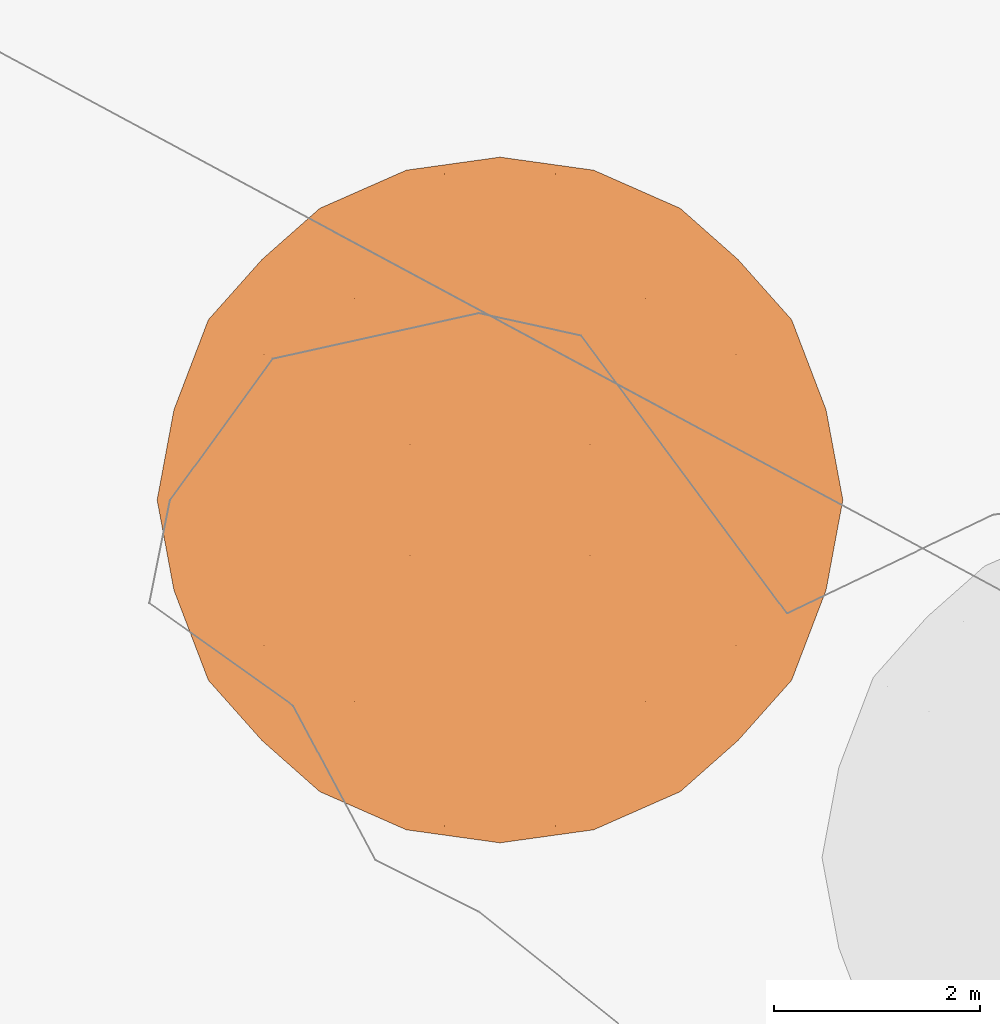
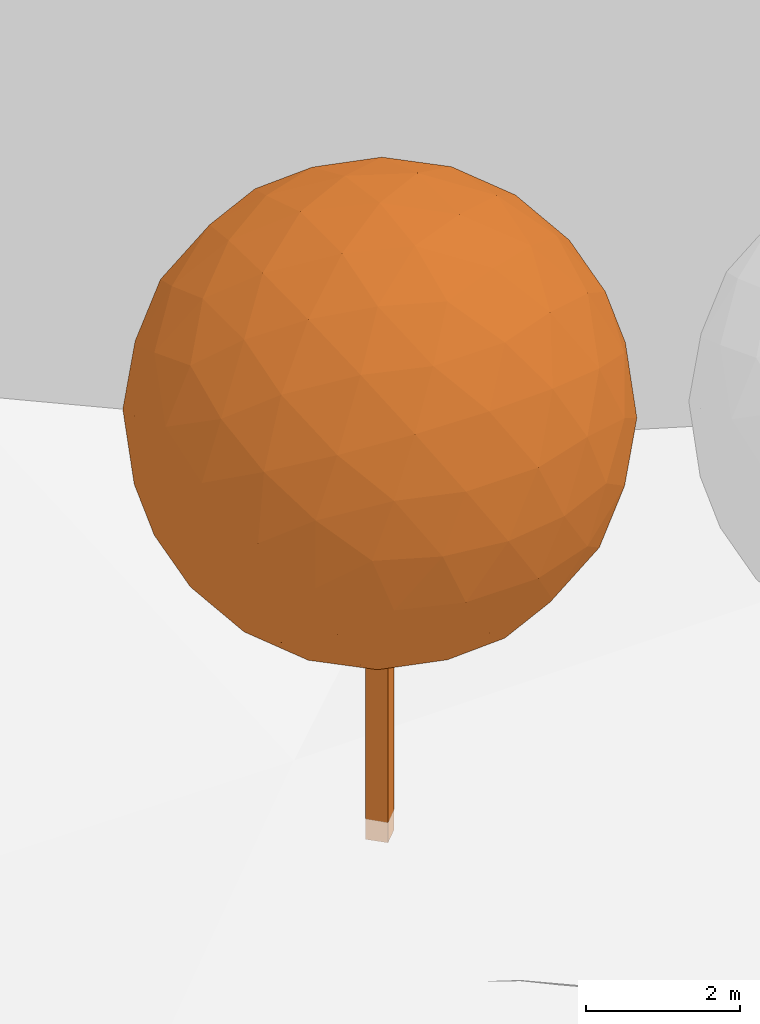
# Not in any storey, part 75 of 80: 1 geographic element.
"""IFC4 model written with IfcOpenShell, lengths in metres."""

from ifc_helpers import new_model, si_unit, frame, origin_with_axes, place, context, subcontext, project, spatial, polygons, element, save


model = new_model("IFC4")

# Units and contexts
model_context = context("Model", 3, precision=1e-05, world=origin_with_axes())
body_context = subcontext(model_context, "Body", "Model", "MODEL_VIEW")
ifc_project = project(units=[si_unit("AREAUNIT", "SQUARE_METRE"), si_unit("LENGTHUNIT", "METRE")], contexts=[model_context])

# Sites
site_1_placement = place(None, origin_with_axes())
site_1 = spatial("IfcSite", under=ifc_project, at=site_1_placement, Name="Topoexport Site")
site_2_placement = place(site_1_placement, origin_with_axes())
site_2 = spatial("IfcSite", under=site_1, at=site_2_placement, Name="TPX_ARBRES")

# Geographic element
geographic_element_placement = place(site_2_placement, frame((240.3994666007, 128.0482540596, 19.8173928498), z_axis=(0.0, 0.0, 1.0), x_axis=(1.0, 0.0, 0.0)))
element("IfcGeographicElement", 1, at=geographic_element_placement, inside=site_2, Name="Arbre TR2 CD66", ObjectType="VEGETATION", PredefinedType="USERDEFINED", context=body_context, shape_type="Tessellation", body=[
    polygons([(0.0, -0.2122065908, 0.0), (-0.2122065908, 0.0, 0.0), (0.0, 0.2122065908, 0.0), (0.2122065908, 0.0, 0.0), (0.0, -0.2122065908, 6.6666666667), (-0.2122065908, 0.0, 6.6666666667), (0.0, 0.2122065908, 6.6666666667), (0.2122065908, 0.0, 6.6666666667)], [[[3, 4, 1]], [[1, 2, 3]], [[5, 8, 7]], [[7, 6, 5]], [[5, 6, 1]], [[1, 6, 2]], [[6, 7, 2]], [[2, 7, 3]], [[8, 5, 4]], [[4, 5, 1]], [[7, 8, 3]], [[3, 8, 4]]]),
    polygons([(-1.7524370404, 2.8355026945, 6.6666666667), (1.7524370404, 2.8355026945, 6.6666666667), (-1.7524370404, -2.8355026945, 6.6666666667), (1.7524370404, -2.8355026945, 6.6666666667), (0.0, -1.7524370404, 9.5021693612), (0.0, 1.7524370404, 9.5021693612), (0.0, -1.7524370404, 3.8311639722), (0.0, 1.7524370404, 3.8311639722), (2.8355026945, 0.0, 4.9142296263), (2.8355026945, 0.0, 8.4191037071), (-2.8355026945, 0.0, 4.9142296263), (-2.8355026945, 0.0, 8.4191037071), (0.0, 3.3333333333, 6.6666666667), (0.0, -3.3333333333, 6.6666666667), (-1.0300566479, -2.6967233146, 8.3333333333), (1.0300566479, -2.6967233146, 8.3333333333), (-1.0300566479, 2.6967233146, 8.3333333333), (1.0300566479, 2.6967233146, 8.3333333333), (0.0, 0.0, 10.0), (-1.0300566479, -2.6967233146, 5.0), (1.0300566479, -2.6967233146, 5.0), (-1.0300566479, 2.6967233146, 5.0), (1.0300566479, 2.6967233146, 5.0), (0.0, 0.0, 3.3333333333), (2.6967233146, 1.6666666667, 5.6366100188), (2.6967233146, -1.6666666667, 5.6366100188), (1.6666666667, -1.0300566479, 3.9699433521), (1.6666666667, 1.0300566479, 3.9699433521), (2.6967233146, 1.6666666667, 7.6967233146), (2.6967233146, -1.6666666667, 7.6967233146), (1.6666666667, -1.0300566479, 9.3633899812), (1.6666666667, 1.0300566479, 9.3633899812), (3.3333333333, 0.0, 6.6666666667), (-2.6967233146, 1.6666666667, 5.6366100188), (-2.6967233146, -1.6666666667, 5.6366100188), (-1.6666666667, -1.0300566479, 3.9699433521), (-1.6666666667, 1.0300566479, 3.9699433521), (-2.6967233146, 1.6666666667, 7.6967233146), (-2.6967233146, -1.6666666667, 7.6967233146), (-1.6666666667, -1.0300566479, 9.3633899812), (-1.6666666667, 1.0300566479, 9.3633899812), (-3.3333333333, 0.0, 6.6666666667), (-0.9108884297, 3.2064611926, 6.6666666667), (0.9108884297, 3.2064611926, 6.6666666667), (-0.9108884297, -3.2064611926, 6.6666666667), (0.9108884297, -3.2064611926, 6.6666666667), (-1.4462952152, -2.8755616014, 7.5329730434), (-0.5354067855, -2.3126015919, 9.0068214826), (-0.5415328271, -3.1701883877, 7.5428851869), (1.4462952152, -2.8755616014, 7.5329730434), (0.5354067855, -2.3126015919, 9.0068214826), (0.5415328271, -3.1701883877, 7.5428851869), (0.0, -2.8355026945, 8.4191037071), (-1.4462952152, 2.8755616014, 7.5329730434), (-0.5354067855, 2.3126015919, 9.0068214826), (-0.5415328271, 3.1701883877, 7.5428851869), (1.4462952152, 2.8755616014, 7.5329730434), (0.5354067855, 2.3126015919, 9.0068214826), (0.5415328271, 3.1701883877, 7.5428851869), (0.0, 2.8355026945, 8.4191037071), (0.0, -0.9108884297, 9.8731278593), (0.0, 0.9108884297, 9.8731278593), (-1.4462952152, -2.8755616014, 5.80036029), (-0.5354067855, -2.3126015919, 4.3265118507), (-0.5415328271, -3.1701883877, 5.7904481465), (1.4462952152, -2.8755616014, 5.80036029), (0.5354067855, -2.3126015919, 4.3265118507), (0.5415328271, -3.1701883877, 5.7904481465), (0.0, -2.8355026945, 4.9142296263), (-1.4462952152, 2.8755616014, 5.80036029), (-0.5354067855, 2.3126015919, 4.3265118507), (-0.5415328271, 3.1701883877, 5.7904481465), (1.4462952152, 2.8755616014, 5.80036029), (0.5354067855, 2.3126015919, 4.3265118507), (0.5415328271, 3.1701883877, 5.7904481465), (0.0, 2.8355026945, 4.9142296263), (0.0, -0.9108884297, 3.4602054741), (0.0, 0.9108884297, 3.4602054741), (2.3126015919, 2.3401548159, 6.1312598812), (2.8755616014, 0.8663063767, 5.2203714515), (1.9592841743, 2.2939698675, 5.2489153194), (2.3126015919, -2.3401548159, 6.1312598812), (2.8755616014, -0.8663063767, 5.2203714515), (1.9592841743, -2.2939698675, 5.2489153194), (0.8663063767, -1.4462952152, 3.7911050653), (2.3401548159, -0.5354067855, 4.3540650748), (1.4177513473, -1.9592841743, 4.3726967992), (0.8762185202, -0.5415328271, 3.496478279), (2.2939698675, -1.4177513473, 4.7073824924), (0.8663063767, 1.4462952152, 3.7911050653), (2.3401548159, 0.5354067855, 4.3540650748), (1.4177513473, 1.9592841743, 4.3726967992), (0.8762185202, 0.5415328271, 3.496478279), (2.2939698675, 1.4177513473, 4.7073824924), (1.7524370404, 0.0, 3.8311639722), (2.3126015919, 2.3401548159, 7.2020734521), (2.8755616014, 0.8663063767, 8.1129618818), (1.9592841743, 2.2939698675, 8.0844180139), (2.8355026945, 1.7524370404, 6.6666666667), (2.3126015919, -2.3401548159, 7.2020734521), (2.8755616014, -0.8663063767, 8.1129618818), (1.9592841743, -2.2939698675, 8.0844180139), (2.8355026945, -1.7524370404, 6.6666666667), (0.8663063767, -1.4462952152, 9.5422282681), (2.3401548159, -0.5354067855, 8.9792682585), (1.4177513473, -1.9592841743, 8.9606365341), (0.8762185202, -0.5415328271, 9.8368550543), (2.2939698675, -1.4177513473, 8.625950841), (0.8663063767, 1.4462952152, 9.5422282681), (2.3401548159, 0.5354067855, 8.9792682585), (1.4177513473, 1.9592841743, 8.9606365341), (0.8762185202, 0.5415328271, 9.8368550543), (2.2939698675, 1.4177513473, 8.625950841), (1.7524370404, 0.0, 9.5021693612), (3.2064611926, 0.0, 5.755778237), (3.2064611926, 0.0, 7.5775550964), (3.1701883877, 0.8762185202, 6.1251338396), (3.1701883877, -0.8762185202, 6.1251338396), (3.1701883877, 0.8762185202, 7.2081994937), (3.1701883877, -0.8762185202, 7.2081994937), (-2.3126015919, 2.3401548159, 6.1312598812), (-2.8755616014, 0.8663063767, 5.2203714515), (-1.9592841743, 2.2939698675, 5.2489153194), (-2.3126015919, -2.3401548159, 6.1312598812), (-2.8755616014, -0.8663063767, 5.2203714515), (-1.9592841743, -2.2939698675, 5.2489153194), (-0.8663063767, -1.4462952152, 3.7911050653), (-2.3401548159, -0.5354067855, 4.3540650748), (-1.4177513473, -1.9592841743, 4.3726967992), (-0.8762185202, -0.5415328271, 3.496478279), (-2.2939698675, -1.4177513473, 4.7073824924), (-0.8663063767, 1.4462952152, 3.7911050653), (-2.3401548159, 0.5354067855, 4.3540650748), (-1.4177513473, 1.9592841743, 4.3726967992), (-0.8762185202, 0.5415328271, 3.496478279), (-2.2939698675, 1.4177513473, 4.7073824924), (-1.7524370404, 0.0, 3.8311639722), (-2.3126015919, 2.3401548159, 7.2020734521), (-2.8755616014, 0.8663063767, 8.1129618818), (-1.9592841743, 2.2939698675, 8.0844180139), (-2.8355026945, 1.7524370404, 6.6666666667), (-2.3126015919, -2.3401548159, 7.2020734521), (-2.8755616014, -0.8663063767, 8.1129618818), (-1.9592841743, -2.2939698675, 8.0844180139), (-2.8355026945, -1.7524370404, 6.6666666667), (-0.8663063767, -1.4462952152, 9.5422282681), (-2.3401548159, -0.5354067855, 8.9792682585), (-1.4177513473, -1.9592841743, 8.9606365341), (-0.8762185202, -0.5415328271, 9.8368550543), (-2.2939698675, -1.4177513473, 8.625950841), (-0.8663063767, 1.4462952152, 9.5422282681), (-2.3401548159, 0.5354067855, 8.9792682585), (-1.4177513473, 1.9592841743, 8.9606365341), (-0.8762185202, 0.5415328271, 9.8368550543), (-2.2939698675, 1.4177513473, 8.625950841), (-1.7524370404, 0.0, 9.5021693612), (-3.2064611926, 0.0, 5.755778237), (-3.2064611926, 0.0, 7.5775550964), (-3.1701883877, 0.8762185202, 6.1251338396), (-3.1701883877, -0.8762185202, 6.1251338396), (-3.1701883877, 0.8762185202, 7.2081994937), (-3.1701883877, -0.8762185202, 7.2081994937)], [[[1, 138, 54]], [[138, 38, 140]], [[54, 140, 17]], [[138, 140, 54]], [[38, 139, 155]], [[139, 12, 152]], [[155, 152, 41]], [[139, 152, 155]], [[17, 153, 55]], [[153, 41, 151]], [[55, 151, 6]], [[153, 151, 55]], [[38, 155, 140]], [[155, 41, 153]], [[140, 153, 17]], [[155, 153, 140]], [[1, 54, 43]], [[54, 17, 56]], [[43, 56, 13]], [[54, 56, 43]], [[17, 55, 60]], [[55, 6, 58]], [[60, 58, 18]], [[55, 58, 60]], [[13, 59, 44]], [[59, 18, 57]], [[44, 57, 2]], [[59, 57, 44]], [[17, 60, 56]], [[60, 18, 59]], [[56, 59, 13]], [[60, 59, 56]], [[1, 43, 70]], [[43, 13, 72]], [[70, 72, 22]], [[43, 72, 70]], [[13, 44, 75]], [[44, 2, 73]], [[75, 73, 23]], [[44, 73, 75]], [[22, 76, 71]], [[76, 23, 74]], [[71, 74, 8]], [[76, 74, 71]], [[13, 75, 72]], [[75, 23, 76]], [[72, 76, 22]], [[75, 76, 72]], [[1, 70, 121]], [[70, 22, 123]], [[121, 123, 34]], [[70, 123, 121]], [[22, 71, 134]], [[71, 8, 132]], [[134, 132, 37]], [[71, 132, 134]], [[34, 136, 122]], [[136, 37, 133]], [[122, 133, 11]], [[136, 133, 122]], [[22, 134, 123]], [[134, 37, 136]], [[123, 136, 34]], [[134, 136, 123]], [[1, 121, 138]], [[121, 34, 141]], [[138, 141, 38]], [[121, 141, 138]], [[34, 122, 159]], [[122, 11, 157]], [[159, 157, 42]], [[122, 157, 159]], [[38, 161, 139]], [[161, 42, 158]], [[139, 158, 12]], [[161, 158, 139]], [[34, 159, 141]], [[159, 42, 161]], [[141, 161, 38]], [[159, 161, 141]], [[2, 57, 96]], [[57, 18, 98]], [[96, 98, 29]], [[57, 98, 96]], [[18, 58, 111]], [[58, 6, 109]], [[111, 109, 32]], [[58, 109, 111]], [[29, 113, 97]], [[113, 32, 110]], [[97, 110, 10]], [[113, 110, 97]], [[18, 111, 98]], [[111, 32, 113]], [[98, 113, 29]], [[111, 113, 98]], [[6, 151, 62]], [[151, 41, 154]], [[62, 154, 19]], [[151, 154, 62]], [[41, 152, 156]], [[152, 12, 147]], [[156, 147, 40]], [[152, 147, 156]], [[19, 149, 61]], [[149, 40, 146]], [[61, 146, 5]], [[149, 146, 61]], [[41, 156, 154]], [[156, 40, 149]], [[154, 149, 19]], [[156, 149, 154]], [[12, 158, 143]], [[158, 42, 162]], [[143, 162, 39]], [[158, 162, 143]], [[42, 157, 160]], [[157, 11, 125]], [[160, 125, 35]], [[157, 125, 160]], [[39, 145, 142]], [[145, 35, 124]], [[142, 124, 3]], [[145, 124, 142]], [[42, 160, 162]], [[160, 35, 145]], [[162, 145, 39]], [[160, 145, 162]], [[11, 133, 128]], [[133, 37, 137]], [[128, 137, 36]], [[133, 137, 128]], [[37, 132, 135]], [[132, 8, 78]], [[135, 78, 24]], [[132, 78, 135]], [[36, 130, 127]], [[130, 24, 77]], [[127, 77, 7]], [[130, 77, 127]], [[37, 135, 137]], [[135, 24, 130]], [[137, 130, 36]], [[135, 130, 137]], [[8, 74, 90]], [[74, 23, 92]], [[90, 92, 28]], [[74, 92, 90]], [[23, 73, 81]], [[73, 2, 79]], [[81, 79, 25]], [[73, 79, 81]], [[28, 94, 91]], [[94, 25, 80]], [[91, 80, 9]], [[94, 80, 91]], [[23, 81, 92]], [[81, 25, 94]], [[92, 94, 28]], [[81, 94, 92]], [[4, 100, 50]], [[100, 30, 102]], [[50, 102, 16]], [[100, 102, 50]], [[30, 101, 108]], [[101, 10, 105]], [[108, 105, 31]], [[101, 105, 108]], [[16, 106, 51]], [[106, 31, 104]], [[51, 104, 5]], [[106, 104, 51]], [[30, 108, 102]], [[108, 31, 106]], [[102, 106, 16]], [[108, 106, 102]], [[4, 50, 46]], [[50, 16, 52]], [[46, 52, 14]], [[50, 52, 46]], [[16, 51, 53]], [[51, 5, 48]], [[53, 48, 15]], [[51, 48, 53]], [[14, 49, 45]], [[49, 15, 47]], [[45, 47, 3]], [[49, 47, 45]], [[16, 53, 52]], [[53, 15, 49]], [[52, 49, 14]], [[53, 49, 52]], [[4, 46, 66]], [[46, 14, 68]], [[66, 68, 21]], [[46, 68, 66]], [[14, 45, 65]], [[45, 3, 63]], [[65, 63, 20]], [[45, 63, 65]], [[21, 69, 67]], [[69, 20, 64]], [[67, 64, 7]], [[69, 64, 67]], [[14, 65, 68]], [[65, 20, 69]], [[68, 69, 21]], [[65, 69, 68]], [[4, 66, 82]], [[66, 21, 84]], [[82, 84, 26]], [[66, 84, 82]], [[21, 67, 87]], [[67, 7, 85]], [[87, 85, 27]], [[67, 85, 87]], [[26, 89, 83]], [[89, 27, 86]], [[83, 86, 9]], [[89, 86, 83]], [[21, 87, 84]], [[87, 27, 89]], [[84, 89, 26]], [[87, 89, 84]], [[4, 82, 100]], [[82, 26, 103]], [[100, 103, 30]], [[82, 103, 100]], [[26, 83, 118]], [[83, 9, 115]], [[118, 115, 33]], [[83, 115, 118]], [[30, 120, 101]], [[120, 33, 116]], [[101, 116, 10]], [[120, 116, 101]], [[26, 118, 103]], [[118, 33, 120]], [[103, 120, 30]], [[118, 120, 103]], [[5, 104, 61]], [[104, 31, 107]], [[61, 107, 19]], [[104, 107, 61]], [[31, 105, 114]], [[105, 10, 110]], [[114, 110, 32]], [[105, 110, 114]], [[19, 112, 62]], [[112, 32, 109]], [[62, 109, 6]], [[112, 109, 62]], [[31, 114, 107]], [[114, 32, 112]], [[107, 112, 19]], [[114, 112, 107]], [[3, 47, 142]], [[47, 15, 144]], [[142, 144, 39]], [[47, 144, 142]], [[15, 48, 148]], [[48, 5, 146]], [[148, 146, 40]], [[48, 146, 148]], [[39, 150, 143]], [[150, 40, 147]], [[143, 147, 12]], [[150, 147, 143]], [[15, 148, 144]], [[148, 40, 150]], [[144, 150, 39]], [[148, 150, 144]], [[7, 64, 127]], [[64, 20, 129]], [[127, 129, 36]], [[64, 129, 127]], [[20, 63, 126]], [[63, 3, 124]], [[126, 124, 35]], [[63, 124, 126]], [[36, 131, 128]], [[131, 35, 125]], [[128, 125, 11]], [[131, 125, 128]], [[20, 126, 129]], [[126, 35, 131]], [[129, 131, 36]], [[126, 131, 129]], [[9, 86, 91]], [[86, 27, 95]], [[91, 95, 28]], [[86, 95, 91]], [[27, 85, 88]], [[85, 7, 77]], [[88, 77, 24]], [[85, 77, 88]], [[28, 93, 90]], [[93, 24, 78]], [[90, 78, 8]], [[93, 78, 90]], [[27, 88, 95]], [[88, 24, 93]], [[95, 93, 28]], [[88, 93, 95]], [[10, 116, 97]], [[116, 33, 119]], [[97, 119, 29]], [[116, 119, 97]], [[33, 115, 117]], [[115, 9, 80]], [[117, 80, 25]], [[115, 80, 117]], [[29, 99, 96]], [[99, 25, 79]], [[96, 79, 2]], [[99, 79, 96]], [[33, 117, 119]], [[117, 25, 99]], [[119, 99, 29]], [[117, 99, 119]]]),
])

save(model, "model.ifc")
